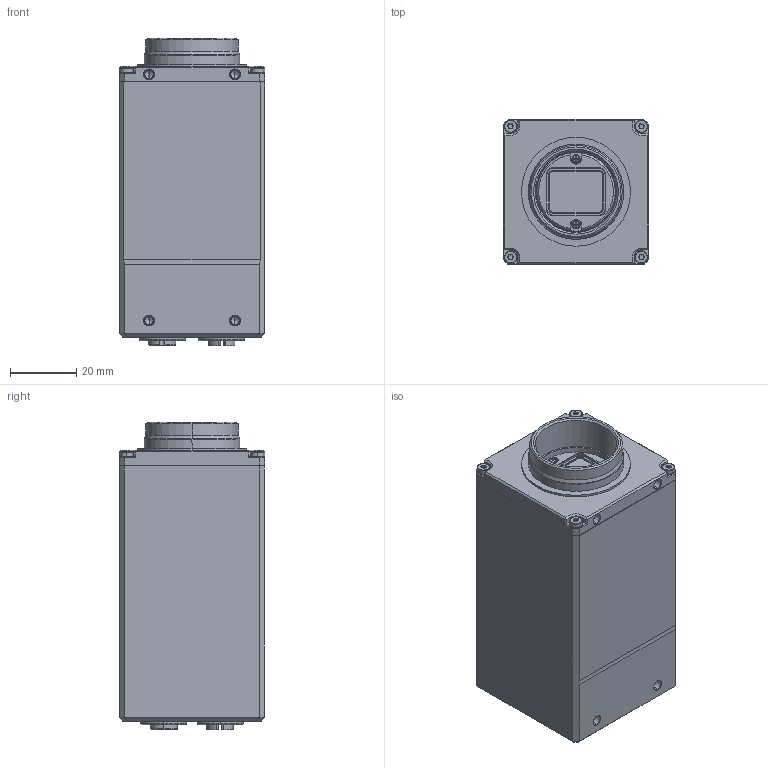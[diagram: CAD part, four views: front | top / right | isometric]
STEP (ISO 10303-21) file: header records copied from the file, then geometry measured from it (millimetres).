
FILE_DESCRIPTION (( 'STEP AP203' ), '1' );
FILE_NAME ('598-460-A_SW.STEP', '2024-11-19T20:38:51', ( '' ), ( '' ), 'SwSTEP 2.0', 'SolidWorks 2021', '' );
FILE_SCHEMA (( 'CONFIG_CONTROL_DESIGN' ));
Length unit declared in the file: millimetre
Products named in the file (1): 598-460-A_SW
Bounding box: 44 x 44 x 93.2 mm (x, y, z)
Volume: 156946.5 mm3; surface area: 22115 mm2
Topology: 3 solids, 9 shells, 778 faces, 1801 edges, 1124 vertices
Faces by surface type: cylinder 331, plane 305, cone 108, torus 26, bspline 8
Entity records: 22292 total; most frequent: DIRECTION 4109, CARTESIAN_POINT 4008, ORIENTED_EDGE 3562, EDGE_CURVE 1781, AXIS2_PLACEMENT_3D 1611, VERTEX_POINT 1124, EDGE_LOOP 897, LINE 887
